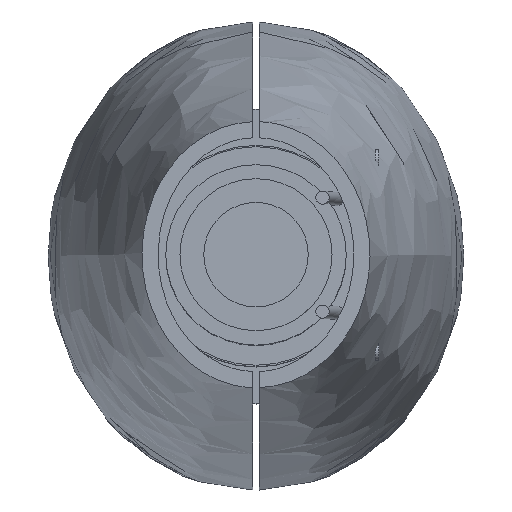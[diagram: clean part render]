
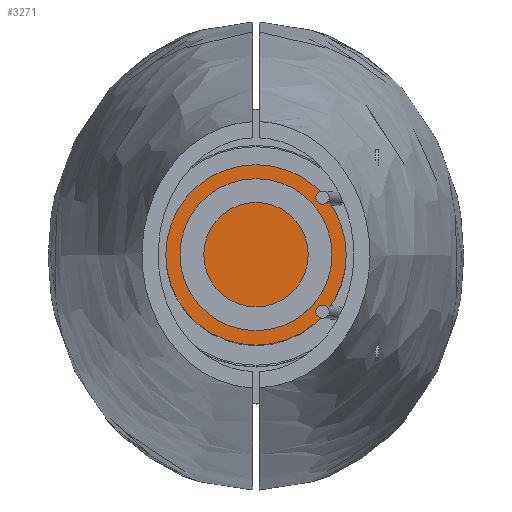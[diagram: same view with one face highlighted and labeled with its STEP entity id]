
A CAD part, top view. The second image highlights one B-rep face of the part: STEP entity #3271.
In plain terms, the highlighted planar face has unit normal (0, 0, 1).
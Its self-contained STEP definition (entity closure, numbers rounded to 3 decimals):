
#3242 = EDGE_CURVE('',#3243,#3243,#3245,.T.);
#3243 = VERTEX_POINT('',#3244);
#3244 = CARTESIAN_POINT('',(19.,0.,235.));
#3245 = CIRCLE('',#3246,19.);
#3246 = AXIS2_PLACEMENT_3D('',#3247,#3248,#3249);
#3247 = CARTESIAN_POINT('',(0.,0.,235.));
#3248 = DIRECTION('',(0.,0.,1.));
#3249 = DIRECTION('',(1.,0.,-0.));
#3271 = ADVANCED_FACE('',(#3272),#3275,.T.);
#3272 = FACE_BOUND('',#3273,.T.);
#3273 = EDGE_LOOP('',(#3274));
#3274 = ORIENTED_EDGE('',*,*,#3242,.T.);
#3275 = PLANE('',#3276);
#3276 = AXIS2_PLACEMENT_3D('',#3277,#3278,#3279);
#3277 = CARTESIAN_POINT('',(0.,0.,235.));
#3278 = DIRECTION('',(0.,0.,1.));
#3279 = DIRECTION('',(1.,0.,-0.));
